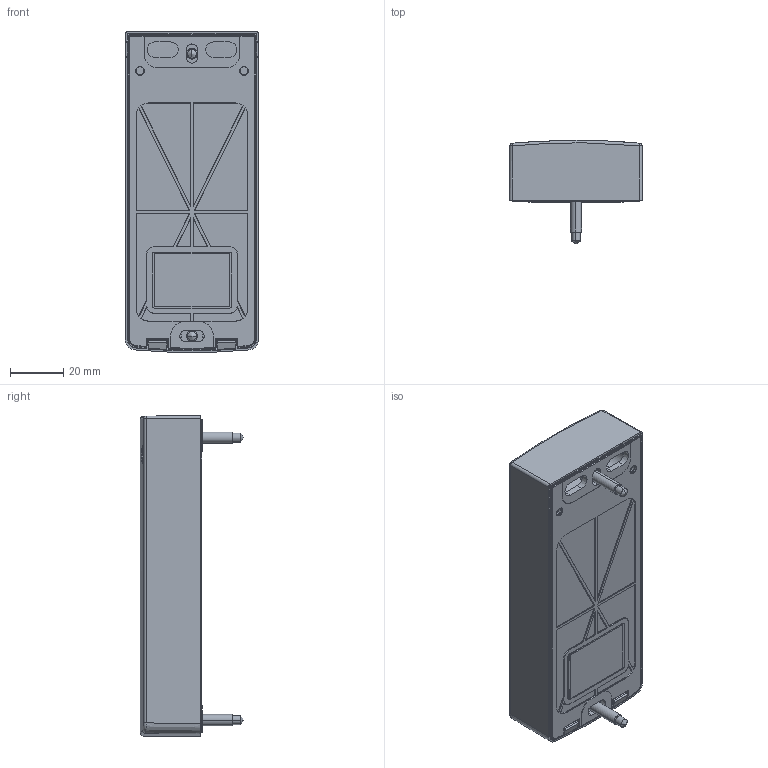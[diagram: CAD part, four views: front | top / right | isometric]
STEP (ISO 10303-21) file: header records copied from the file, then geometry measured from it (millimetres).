
FILE_DESCRIPTION (( 'STEP AP214' ), '1' );
FILE_NAME ('TX.STEP', '2020-11-26T11:05:50', ( '' ), ( '' ), 'SwSTEP 2.0', 'SolidWorks 2017', '' );
FILE_SCHEMA (( 'AUTOMOTIVE_DESIGN' ));
Length unit declared in the file: millimetre
Products named in the file (2): TX
Bounding box: 50 x 38.69 x 120.39 mm (x, y, z)
Volume: 119977.7 mm3; surface area: 31642.9 mm2
Topology: 9 solids, 13 shells, 1768 faces, 4729 edges, 2937 vertices
Faces by surface type: bspline 755, plane 374, cylinder 352, torus 160, cone 86, sphere 41
Entity records: 88653 total; most frequent: CARTESIAN_POINT 32829, ORIENTED_EDGE 9336, DIRECTION 5181, EDGE_CURVE 4668, VERTEX_POINT 2937, B_SPLINE_CURVE_WITH_KNOTS 2308, AXIS2_PLACEMENT_3D 1998, EDGE_LOOP 1817
